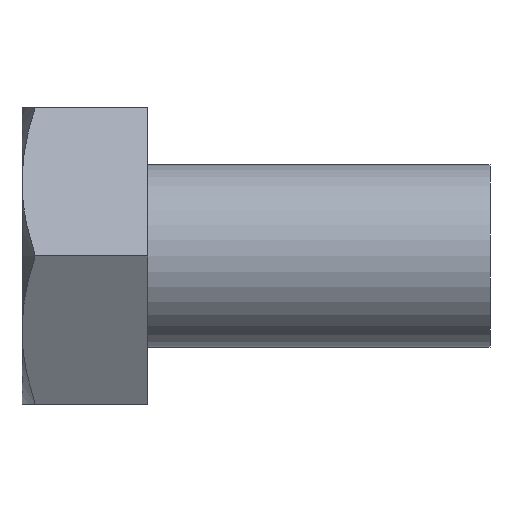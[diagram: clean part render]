
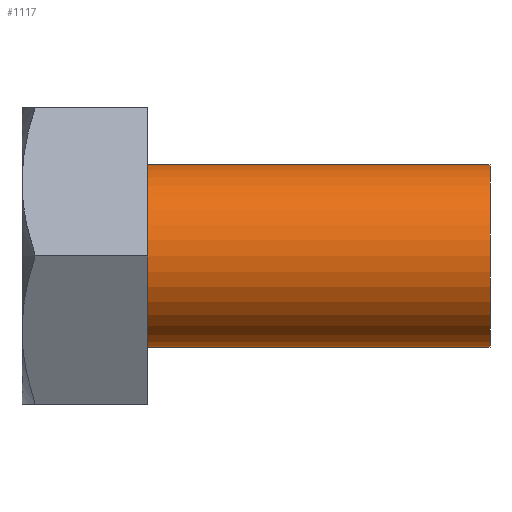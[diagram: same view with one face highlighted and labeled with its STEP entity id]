
A CAD part, front view. The second image highlights one B-rep face of the part: STEP entity #1117.
In plain terms, the highlighted cylindrical face has radius 4 mm (diameter 8 mm), a partial arc.
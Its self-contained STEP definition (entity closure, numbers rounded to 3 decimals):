
#22 = ORIENTED_EDGE ( 'NONE', *, *, #1210, .F. ) ;
#229 = FACE_OUTER_BOUND ( 'NONE', #1094, .T. ) ;
#230 = CYLINDRICAL_SURFACE ( 'NONE', #236, 4. ) ;
#235 = ORIENTED_EDGE ( 'NONE', *, *, #1190, .T. ) ;
#236 = AXIS2_PLACEMENT_3D ( 'NONE', #237, #238, #239 ) ;
#237 = CARTESIAN_POINT ( 'NONE',  ( 0., 0., 0. ) ) ;
#238 = DIRECTION ( 'NONE',  ( 1., 0., 0. ) ) ;
#239 = DIRECTION ( 'NONE',  ( 0., 0., -1. ) ) ;
#379 = VERTEX_POINT ( 'NONE', #520 ) ;
#428 = CARTESIAN_POINT ( 'NONE',  ( 0., 0., 4. ) ) ;
#520 = CARTESIAN_POINT ( 'NONE',  ( 15., 0., 4. ) ) ;
#557 = CARTESIAN_POINT ( 'NONE',  ( 15., 0., -4. ) ) ;
#587 = EDGE_CURVE ( 'NONE', #1034, #379, #669, .T. ) ;
#596 = CARTESIAN_POINT ( 'NONE',  ( 0., 0., -4. ) ) ;
#669 = LINE ( 'NONE', #670, #671 ) ;
#670 = CARTESIAN_POINT ( 'NONE',  ( 0., 0., 4. ) ) ;
#671 = VECTOR ( 'NONE', #672, 1000. ) ;
#672 = DIRECTION ( 'NONE',  ( 1., 0., 0. ) ) ;
#733 = EDGE_CURVE ( 'NONE', #1034, #1055, #758, .T. ) ;
#743 = LINE ( 'NONE', #744, #745 ) ;
#744 = CARTESIAN_POINT ( 'NONE',  ( 0., 0., -4. ) ) ;
#745 = VECTOR ( 'NONE', #746, 1000. ) ;
#746 = DIRECTION ( 'NONE',  ( 1., 0., 0. ) ) ;
#758 = CIRCLE ( 'NONE', #759, 4. ) ;
#759 = AXIS2_PLACEMENT_3D ( 'NONE', #760, #761, #762 ) ;
#760 = CARTESIAN_POINT ( 'NONE',  ( 0., 0., 0. ) ) ;
#761 = DIRECTION ( 'NONE',  ( 1., 0., 0. ) ) ;
#762 = DIRECTION ( 'NONE',  ( 0., 0., -1. ) ) ;
#824 = CIRCLE ( 'NONE', #825, 4. ) ;
#825 = AXIS2_PLACEMENT_3D ( 'NONE', #826, #827, #828 ) ;
#826 = CARTESIAN_POINT ( 'NONE',  ( 15., 0., 0. ) ) ;
#827 = DIRECTION ( 'NONE',  ( 1., 0., 0. ) ) ;
#828 = DIRECTION ( 'NONE',  ( 0., 0., -1. ) ) ;
#1004 = ORIENTED_EDGE ( 'NONE', *, *, #733, .T. ) ;
#1034 = VERTEX_POINT ( 'NONE', #428 ) ;
#1047 = ORIENTED_EDGE ( 'NONE', *, *, #587, .F. ) ;
#1055 = VERTEX_POINT ( 'NONE', #596 ) ;
#1094 = EDGE_LOOP ( 'NONE', ( #1047, #1004, #235, #22 ) ) ;
#1117 = ADVANCED_FACE ( 'NONE', ( #229 ), #230, .T. ) ;
#1190 = EDGE_CURVE ( 'NONE', #1055, #1274, #743, .T. ) ;
#1210 = EDGE_CURVE ( 'NONE', #379, #1274, #824, .T. ) ;
#1274 = VERTEX_POINT ( 'NONE', #557 ) ;
